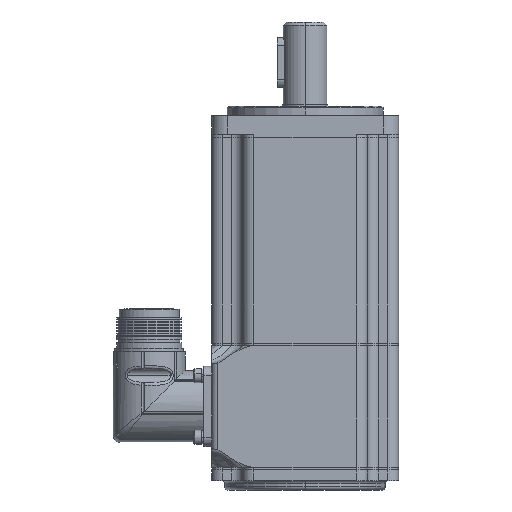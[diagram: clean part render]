
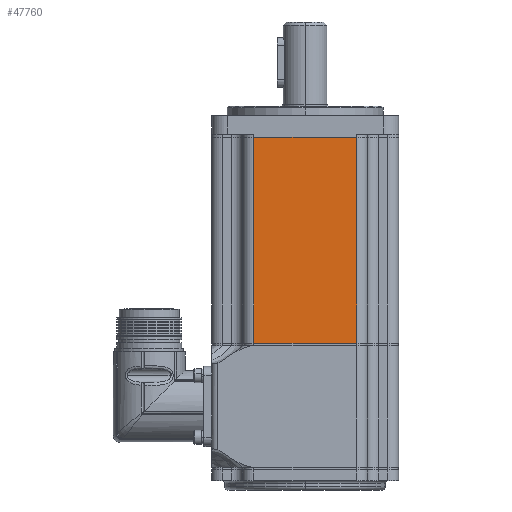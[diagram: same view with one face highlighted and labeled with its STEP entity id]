
A CAD part, left-side view. The second image highlights one B-rep face of the part: STEP entity #47760.
In plain terms, the highlighted planar face has unit normal (-1, 0, 0).
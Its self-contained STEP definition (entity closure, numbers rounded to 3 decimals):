
#3880 = FACE_OUTER_BOUND ( 'NONE', #15914, .T. ) ;
#8435 = AXIS2_PLACEMENT_3D ( 'NONE', #12274, #12275, #12276 ) ;
#12273 = PLANE ( 'NONE',  #8435 ) ;
#12274 = CARTESIAN_POINT ( 'NONE',  ( -30., -20., -67. ) ) ;
#12275 = DIRECTION ( 'NONE',  ( 1., 0., 0. ) ) ;
#12276 = DIRECTION ( 'NONE',  ( 0., 0., -1. ) ) ;
#15914 = EDGE_LOOP ( 'NONE', ( #24136, #24137, #24135, #24138 ) ) ;
#17683 = CARTESIAN_POINT ( 'NONE',  ( -30., -16.5, -1. ) ) ;
#17692 = CARTESIAN_POINT ( 'NONE',  ( -30., 16.5, -1. ) ) ;
#18329 = CARTESIAN_POINT ( 'NONE',  ( -30., -16.5, -67. ) ) ;
#18409 = CARTESIAN_POINT ( 'NONE',  ( -30., 16.5, -67. ) ) ;
#19527 = EDGE_CURVE ( 'NONE', #54477, #54557, #51755, .T. ) ;
#19604 = EDGE_CURVE ( 'NONE', #53831, #53840, #51768, .T. ) ;
#19664 = EDGE_CURVE ( 'NONE', #54477, #53831, #51787, .T. ) ;
#19667 = EDGE_CURVE ( 'NONE', #53840, #54557, #51788, .T. ) ;
#24135 = ORIENTED_EDGE ( 'NONE', *, *, #19604, .T. ) ;
#24136 = ORIENTED_EDGE ( 'NONE', *, *, #19527, .F. ) ;
#24137 = ORIENTED_EDGE ( 'NONE', *, *, #19664, .T. ) ;
#24138 = ORIENTED_EDGE ( 'NONE', *, *, #19667, .T. ) ;
#47760 = ADVANCED_FACE ( 'NONE', ( #3880 ), #12273, .F. ) ;
#49403 = VECTOR ( 'NONE', #55226, 1000. ) ;
#49452 = VECTOR ( 'NONE', #55306, 1000. ) ;
#49480 = VECTOR ( 'NONE', #55359, 1000. ) ;
#49481 = VECTOR ( 'NONE', #55361, 1000. ) ;
#51755 = LINE ( 'NONE', #55225, #49403 ) ;
#51768 = LINE ( 'NONE', #55305, #49452 ) ;
#51787 = LINE ( 'NONE', #55358, #49480 ) ;
#51788 = LINE ( 'NONE', #55360, #49481 ) ;
#53831 = VERTEX_POINT ( 'NONE', #17683 ) ;
#53840 = VERTEX_POINT ( 'NONE', #17692 ) ;
#54477 = VERTEX_POINT ( 'NONE', #18329 ) ;
#54557 = VERTEX_POINT ( 'NONE', #18409 ) ;
#55225 = CARTESIAN_POINT ( 'NONE',  ( -30., -20., -67. ) ) ;
#55226 = DIRECTION ( 'NONE',  ( 0., 1., 0. ) ) ;
#55305 = CARTESIAN_POINT ( 'NONE',  ( -30., -20., -1. ) ) ;
#55306 = DIRECTION ( 'NONE',  ( 0., 1., 0. ) ) ;
#55358 = CARTESIAN_POINT ( 'NONE',  ( -30., -16.5, -67. ) ) ;
#55359 = DIRECTION ( 'NONE',  ( 0., 0., 1. ) ) ;
#55360 = CARTESIAN_POINT ( 'NONE',  ( -30., 16.5, -67. ) ) ;
#55361 = DIRECTION ( 'NONE',  ( 0., 0., -1. ) ) ;
